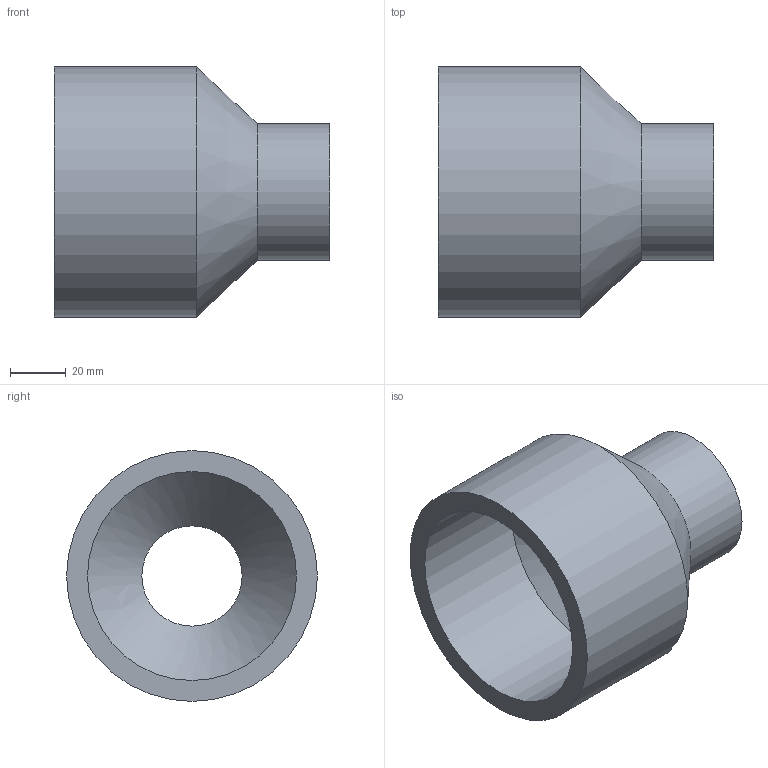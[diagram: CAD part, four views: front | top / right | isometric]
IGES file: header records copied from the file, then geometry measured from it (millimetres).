
Global section: file name: 050200090040.ipt; native system: Autodesk Inventor 2015; preprocessor: unknown; author: KIM; date: 20171207.164217; units: millimetre
Bounding box: 99 x 90 x 90 mm (x, y, z)
Volume: 171372.4 mm3; surface area: 47334.6 mm2
Topology: 1 solids, 1 shells, 10 faces, 23 edges, 16 vertices
Faces by surface type: revolution 4, plane 3, cylinder 2, cone 1
Full cylindrical faces by diameter (mm): 49 x1, 90 x1
